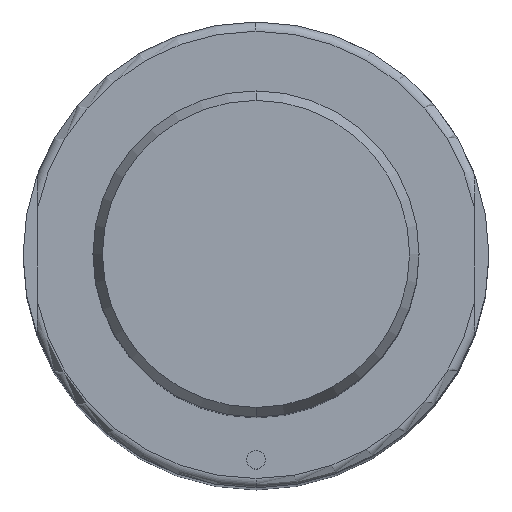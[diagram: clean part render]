
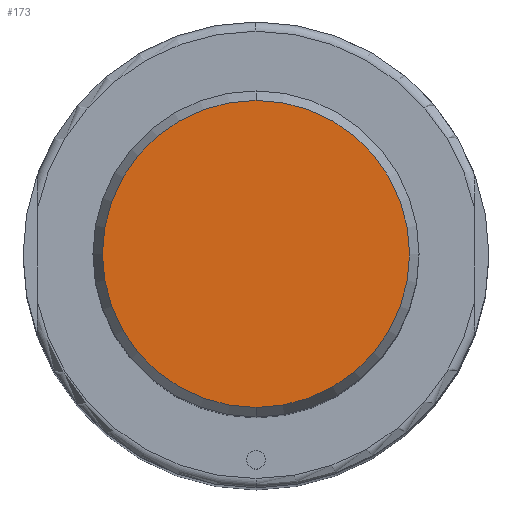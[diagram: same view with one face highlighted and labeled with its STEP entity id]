
A CAD part, top view. The second image highlights one B-rep face of the part: STEP entity #173.
In plain terms, the highlighted planar face has unit normal (0, 0, 1).
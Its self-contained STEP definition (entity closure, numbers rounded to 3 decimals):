
#124=PLANE('',#990);
#173=ADVANCED_FACE('',(#244),#124,.T.);
#244=FACE_OUTER_BOUND('',#297,.T.);
#297=EDGE_LOOP('',(#457,#458));
#364=CIRCLE('',#975,16.481);
#365=CIRCLE('',#977,16.481);
#457=ORIENTED_EDGE('',*,*,#758,.F.);
#458=ORIENTED_EDGE('',*,*,#759,.F.);
#677=VERTEX_POINT('',#1413);
#680=VERTEX_POINT('',#1418);
#758=EDGE_CURVE('',#680,#677,#364,.T.);
#759=EDGE_CURVE('',#677,#680,#365,.T.);
#975=AXIS2_PLACEMENT_3D('',#1419,#1109,#1110);
#977=AXIS2_PLACEMENT_3D('',#1421,#1113,#1114);
#990=AXIS2_PLACEMENT_3D('',#1444,#1143,#1144);
#1109=DIRECTION('',(0.,0.,-1.));
#1110=DIRECTION('',(-1.,0.,0.));
#1113=DIRECTION('',(0.,0.,-1.));
#1114=DIRECTION('',(1.,0.,0.));
#1143=DIRECTION('',(0.,0.,1.));
#1144=DIRECTION('',(0.,-1.,0.));
#1413=CARTESIAN_POINT('',(0.,-16.481,195.));
#1418=CARTESIAN_POINT('',(0.,16.481,195.));
#1419=CARTESIAN_POINT('',(0.,0.,195.));
#1421=CARTESIAN_POINT('',(0.,0.,195.));
#1444=CARTESIAN_POINT('',(0.,0.,195.));
